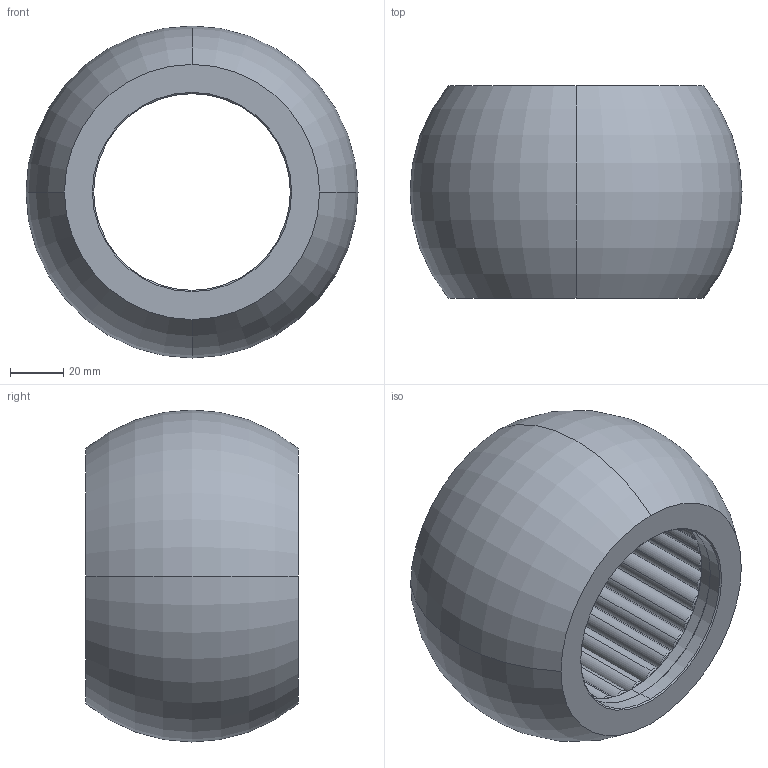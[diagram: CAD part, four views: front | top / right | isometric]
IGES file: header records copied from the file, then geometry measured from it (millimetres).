
Start section: 3D InterOp IGES (Version 20 0 1), Spatial Corp. Copyright (c) 1999-2007.
Global section: file name: 15.xx.74.igs; native system: Spatial Corp.; preprocessor: 3D InterOp GENERIC/IGES 3.0; author: Noname; organization: Noname; date: 20111114.154946; units: metre
Bounding box: 125 x 80.03 x 125 mm (x, y, z)
Surface area: 165586.4 mm2 (no closed solid volume)
Topology: 0 solids, 0 shells, 702 faces, 2932 edges, 2932 vertices
Faces by surface type: revolution 570, extrusion 132
